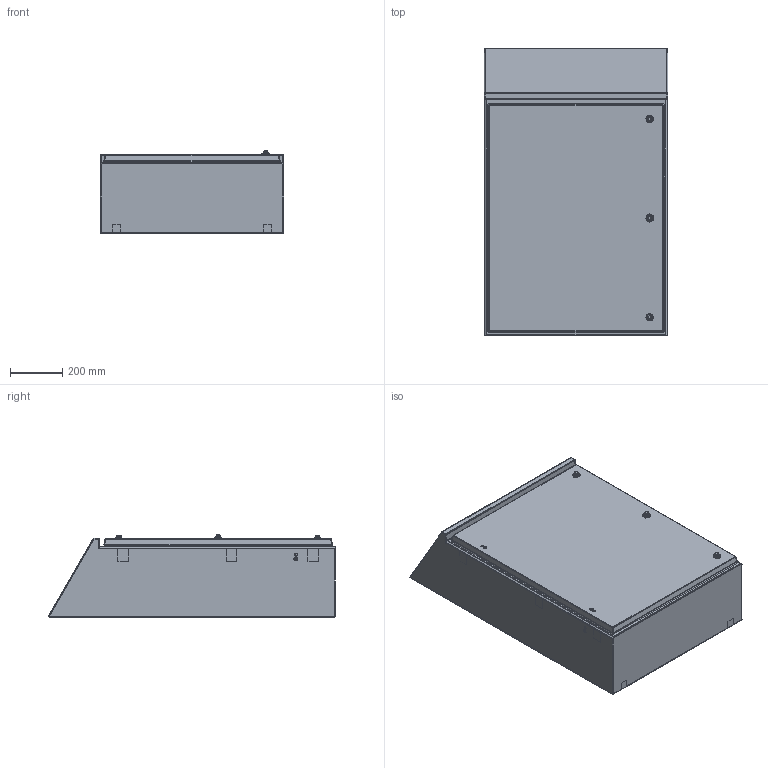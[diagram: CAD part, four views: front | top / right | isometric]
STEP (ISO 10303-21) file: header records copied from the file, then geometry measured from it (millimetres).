
FILE_DESCRIPTION (( 'STEP AP203' ), '1' );
FILE_NAME ('SITO-QSH79.STEP', '2021-05-06T07:43:40', ( '' ), ( '' ), 'SwSTEP 2.0', 'SolidWorks 2020', '' );
FILE_SCHEMA (( 'CONFIG_CONTROL_DESIGN' ));
Length unit declared in the file: millimetre
Products named in the file (20): Scarpetta H.32 SG460-SD_Configurazione 2; RP0612I; SITO-FASCIAME QSH79_QSH45; CEPOM(CORPO); DM06I; SVPIQSH79A; SG460-SD senza scarpetta_Configurazione 1; SG460-32-HD_Posizione 4; PIQSH79A; SITO-ASSIEME PORTA QSH79; SITO-PORTA QSH79; SG460-32-HD_Posizione 3; DMFD08Z; 1000-S1491; PRM615TL316; CERNIERA; GHIERA SG CASSETTE; ADMT_ADMT; SITO-QSH79
Assembly tree (39 placements, depth 4):
  SITO-QSH79
    SITO-FASCIAME QSH79_QSH45
    PIQSH79A
      SVPIQSH79A
    SITO-ASSIEME PORTA QSH79
      SITO-PORTA QSH79
      SG460-32-HD_Posizione 4
        1000-S1491
        GHIERA SG CASSETTE
        Scarpetta H.32 SG460-SD_Configurazione 2
        CEPOM(CORPO)
        SG460-SD senza scarpetta_Configurazione 1
      SG460-32-HD_Posizione 3
        1000-S1491
        GHIERA SG CASSETTE
        Scarpetta H.32 SG460-SD_Configurazione 2
        CEPOM(CORPO)
      PRM615TL316  x2
      ADMT_ADMT  x2
      RP0612I  x2
      DM06I  x2
      SG460-32-HD_Posizione 4
        1000-S1491
        GHIERA SG CASSETTE
        Scarpetta H.32 SG460-SD_Configurazione 2
        CEPOM(CORPO)
        SG460-SD senza scarpetta_Configurazione 1
    DMFD08Z  x4
    ADMT_ADMT  x2
    CERNIERA  x3
Bounding box: 700 x 1094.81 x 313.12 mm (x, y, z)
Volume: 5907001.4 mm3; surface area: 6623511.6 mm2
Topology: 47 solids, 47 shells, 2196 faces, 5425 edges, 3377 vertices
Faces by surface type: plane 1122, cylinder 710, bspline 164, cone 154, sphere 28, torus 18
Entity records: 38277 total; most frequent: CARTESIAN_POINT 9656, DIRECTION 5476, ORIENTED_EDGE 5410, EDGE_CURVE 2705, AXIS2_PLACEMENT_3D 1934, VERTEX_POINT 1683, LINE 1608, VECTOR 1608
